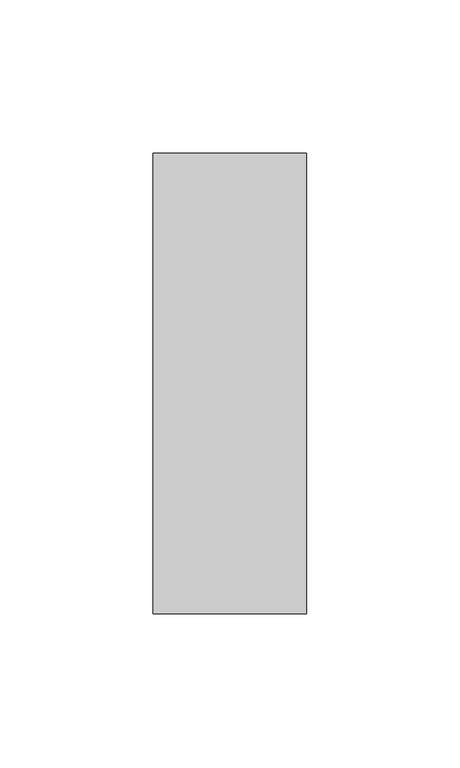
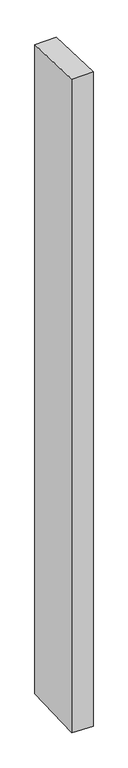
"""IFC4 building model written with IfcOpenShell, lengths in millimetres: member geometry, Прямоугольный импост : 50 x 150 мм."""

from ifc_helpers import new_model, si_unit, origin, place, context, project, spatial, faceted_brep, source, transform, mapped, element, save


def member_84b1f567(model_context):
    return source(origin(), model_context, "Body", "Brep", [
        faceted_brep([(-25.0, 75.0, -3.3233719), (25.0, 75.0, -2.2337112), (25.0, 75.0, -1616.775462), (-25.0, 75.0, -1615.4228461), (-25.0, -75.0, 2.2337112), (-25.0, -75.0, -1620.7770197), (25.0, -75.0, 3.3233719), (25.0, -75.0, -1622.1296357)], [[[0, 1, 2, 3]], [[4, 0, 3, 5]], [[6, 4, 5, 7]], [[1, 6, 7, 2]], [[1, 0, 4, 6]], [[2, 7, 5, 3]]]),
    ])


if __name__ == "__main__":
    model = new_model("IFC4")
    model_context = context("Model", 3, world=origin())
    ifc_project = project(units=[si_unit("LENGTHUNIT", "METRE", prefix="MILLI")], contexts=[model_context])
    site = spatial("IfcSite", under=ifc_project)
    building = spatial("IfcBuilding", under=site)
    placement = place(None, origin())
    member_shape = member_84b1f567(model_context)
    element("IfcMember", 1, ObjectType="Прямоугольный импост : 50 x 150 мм", at=placement, inside=building, context=model_context, shape_type="MappedRepresentation", body=[
        mapped(member_shape, transform((0.0, 0.0, 0.0), x_axis=(1.0, 0.0, 0.0), y_axis=(0.0, 1.0, 0.0), z_axis=(0.0, 0.0, 1.0))),
    ])
    save(model, "model.ifc")
